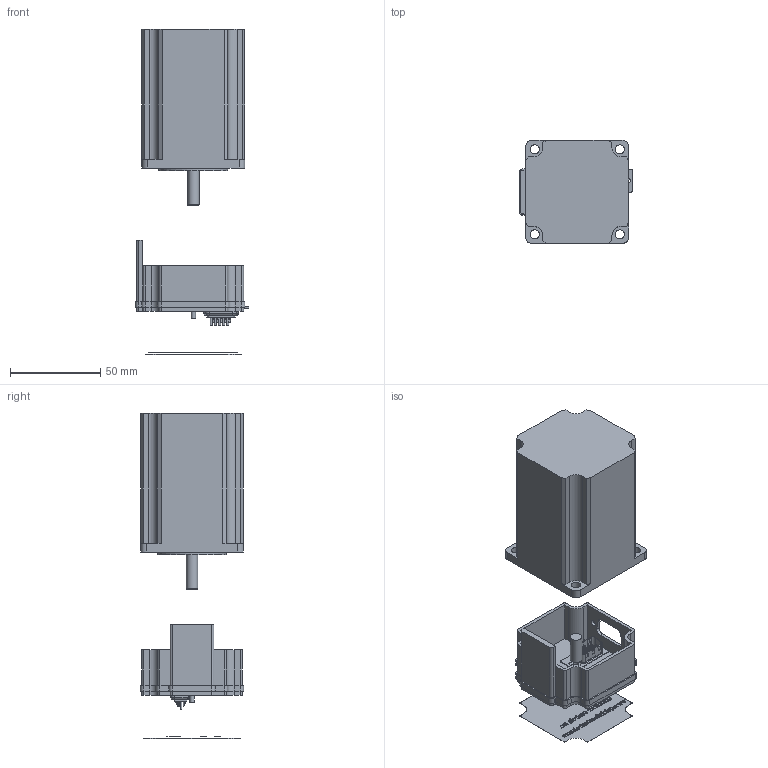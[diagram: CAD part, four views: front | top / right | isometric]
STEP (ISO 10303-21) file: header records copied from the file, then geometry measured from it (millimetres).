
FILE_DESCRIPTION(/* description */ ('Alibre Inc.'),/* implementation_level */ '2;1');
FILE_NAME(/* name */ 'export0',/* time_stamp */ '2008-02-02T08:56:15-08:00',/* author */ (''),/* organization */ (''),/* preprocessor_version */ 'ST-DEVELOPER v10',/* originating_system */ 'Alibre',/* authorisation */ '');
FILE_SCHEMA (('ALIBRE_SCHEMA','CONFIG_CONTROL_DESIGN'));
Length unit declared in the file: inch
Products named in the file (9): ID_1
Bounding box: 63.07 x 57.4 x 180.5 mm (x, y, z)
Volume: 247165.8 mm3; surface area: 49512.3 mm2
Topology: 63 solids, 63 shells, 1779 faces, 4603 edges, 3018 vertices
Faces by surface type: plane 798, bspline 641, cylinder 289, torus 50, cone 1
Full cylindrical faces by diameter (mm): 2.489 x1, 2.87 x1, 3.175 x2, 5.08 x4, 6.35 x2, 8.89 x1, 38.1 x1
Entity records: 111412 total; most frequent: CARTESIAN_POINT 33950, ORIENTED_EDGE 12004, DIRECTION 8298, EDGE_CURVE 5972, CONSTRAINTPAIRUV 4720, VECTOR 4347, LINE 4037, VERTEX_POINT 3897
